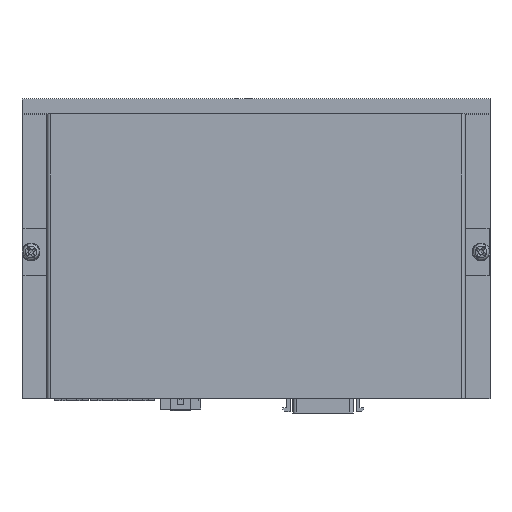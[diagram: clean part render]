
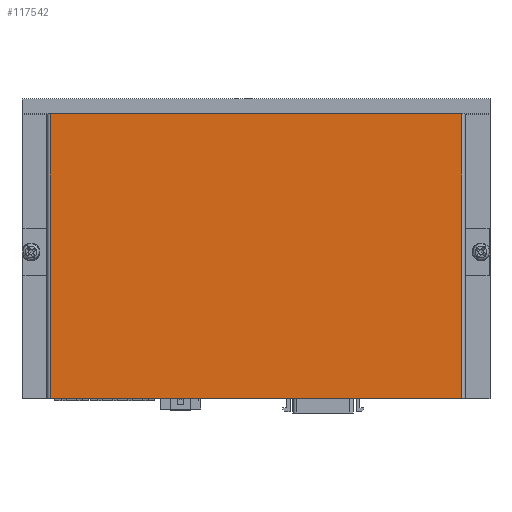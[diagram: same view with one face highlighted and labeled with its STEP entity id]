
A CAD part, top view. The second image highlights one B-rep face of the part: STEP entity #117542.
In plain terms, the highlighted planar face has unit normal (0, 0, 1).
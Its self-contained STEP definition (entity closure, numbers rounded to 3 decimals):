
#3765 = VERTEX_POINT ( 'NONE', #134563 ) ;
#4007 = DIRECTION ( 'NONE',  ( 1., 0., 0. ) ) ;
#6333 = CARTESIAN_POINT ( 'NONE',  ( 139.2, 95.5, 29.4 ) ) ;
#8207 = VERTEX_POINT ( 'NONE', #75550 ) ;
#14677 = CARTESIAN_POINT ( 'NONE',  ( 139.2, 0., 29.4 ) ) ;
#14871 = CARTESIAN_POINT ( 'NONE',  ( 0., 95.5, 29.4 ) ) ;
#21232 = EDGE_CURVE ( 'NONE', #84222, #43017, #33672, .T. ) ;
#23082 = LINE ( 'NONE', #112014, #109141 ) ;
#24274 = EDGE_CURVE ( 'NONE', #8207, #3765, #27335, .T. ) ;
#27335 = LINE ( 'NONE', #75932, #109980 ) ;
#31973 = ORIENTED_EDGE ( 'NONE', *, *, #24274, .T. ) ;
#33672 = LINE ( 'NONE', #6333, #59001 ) ;
#36560 = DIRECTION ( 'NONE',  ( 1., 0., 0. ) ) ;
#40825 = DIRECTION ( 'NONE',  ( 0., 0., -1. ) ) ;
#43017 = VERTEX_POINT ( 'NONE', #127724 ) ;
#43479 = EDGE_CURVE ( 'NONE', #8207, #43017, #64038, .T. ) ;
#53684 = AXIS2_PLACEMENT_3D ( 'NONE', #126714, #40825, #116276 ) ;
#59001 = VECTOR ( 'NONE', #103985, 1000. ) ;
#64038 = LINE ( 'NONE', #14871, #92757 ) ;
#74211 = FACE_OUTER_BOUND ( 'NONE', #113145, .T. ) ;
#75550 = CARTESIAN_POINT ( 'NONE',  ( 1.2, 95.5, 29.4 ) ) ;
#75932 = CARTESIAN_POINT ( 'NONE',  ( 1.2, 95.5, 29.4 ) ) ;
#76234 = ORIENTED_EDGE ( 'NONE', *, *, #43479, .F. ) ;
#84222 = VERTEX_POINT ( 'NONE', #14677 ) ;
#86818 = DIRECTION ( 'NONE',  ( 0., -1., 0. ) ) ;
#92757 = VECTOR ( 'NONE', #4007, 1000. ) ;
#96167 = ORIENTED_EDGE ( 'NONE', *, *, #21232, .T. ) ;
#103985 = DIRECTION ( 'NONE',  ( 0., 1., 0. ) ) ;
#105445 = PLANE ( 'NONE',  #53684 ) ;
#109141 = VECTOR ( 'NONE', #36560, 1000. ) ;
#109980 = VECTOR ( 'NONE', #86818, 1000. ) ;
#112014 = CARTESIAN_POINT ( 'NONE',  ( 0., 0., 29.4 ) ) ;
#113145 = EDGE_LOOP ( 'NONE', ( #76234, #31973, #127690, #96167 ) ) ;
#116276 = DIRECTION ( 'NONE',  ( -1., 0., 0. ) ) ;
#117542 = ADVANCED_FACE ( 'NONE', ( #74211 ), #105445, .F. ) ;
#126714 = CARTESIAN_POINT ( 'NONE',  ( 0., 95.5, 29.4 ) ) ;
#127690 = ORIENTED_EDGE ( 'NONE', *, *, #136132, .T. ) ;
#127724 = CARTESIAN_POINT ( 'NONE',  ( 139.2, 95.5, 29.4 ) ) ;
#134563 = CARTESIAN_POINT ( 'NONE',  ( 1.2, 0., 29.4 ) ) ;
#136132 = EDGE_CURVE ( 'NONE', #3765, #84222, #23082, .T. ) ;
